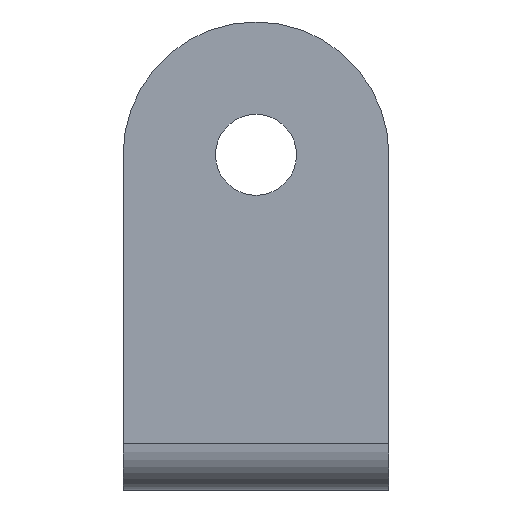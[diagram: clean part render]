
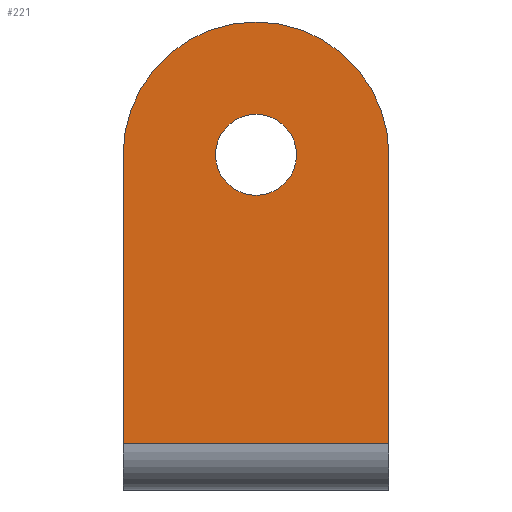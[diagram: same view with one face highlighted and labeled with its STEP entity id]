
A CAD part, left-side view. The second image highlights one B-rep face of the part: STEP entity #221.
In plain terms, the highlighted planar face has unit normal (-1, 0, 0).
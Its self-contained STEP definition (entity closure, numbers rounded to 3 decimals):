
#20=FACE_BOUND('',#55,.T.);
#26=PLANE('',#247);
#37=FACE_OUTER_BOUND('',#54,.T.);
#54=EDGE_LOOP('',(#196,#197,#198,#199));
#55=EDGE_LOOP('',(#200));
#61=LINE('',#338,#77);
#65=LINE('',#352,#81);
#72=LINE('',#372,#88);
#77=VECTOR('',#271,23.);
#81=VECTOR('',#285,25.);
#88=VECTOR('',#308,25.);
#97=CIRCLE('',#239,3.5);
#98=CIRCLE('',#241,11.5);
#109=VERTEX_POINT('',#335);
#110=VERTEX_POINT('',#337);
#115=VERTEX_POINT('',#351);
#117=VERTEX_POINT('',#358);
#118=VERTEX_POINT('',#361);
#130=EDGE_CURVE('',#109,#110,#61,.T.);
#137=EDGE_CURVE('',#110,#115,#65,.T.);
#141=EDGE_CURVE('',#117,#117,#97,.T.);
#143=EDGE_CURVE('',#118,#115,#98,.T.);
#148=EDGE_CURVE('',#109,#118,#72,.T.);
#196=ORIENTED_EDGE('',*,*,#130,.F.);
#197=ORIENTED_EDGE('',*,*,#148,.T.);
#198=ORIENTED_EDGE('',*,*,#143,.T.);
#199=ORIENTED_EDGE('',*,*,#137,.F.);
#200=ORIENTED_EDGE('',*,*,#141,.T.);
#221=ADVANCED_FACE('',(#37,#20),#26,.T.);
#239=AXIS2_PLACEMENT_3D('',#359,#291,#292);
#241=AXIS2_PLACEMENT_3D('',#363,#296,#297);
#247=AXIS2_PLACEMENT_3D('',#374,#311,#312);
#271=DIRECTION('',(0.,1.,0.));
#285=DIRECTION('',(0.,0.,1.));
#291=DIRECTION('center_axis',(1.,0.,0.));
#292=DIRECTION('ref_axis',(0.,0.,-1.));
#296=DIRECTION('center_axis',(-1.,0.,0.));
#297=DIRECTION('ref_axis',(0.,0.,1.));
#308=DIRECTION('',(0.,0.,1.));
#311=DIRECTION('center_axis',(-1.,0.,0.));
#312=DIRECTION('ref_axis',(0.,-1.,0.));
#335=CARTESIAN_POINT('',(0.,-11.5,4.));
#337=CARTESIAN_POINT('',(0.,11.5,4.));
#338=CARTESIAN_POINT('',(0.,5.75,4.));
#351=CARTESIAN_POINT('',(0.,11.5,29.));
#352=CARTESIAN_POINT('',(0.,11.5,0.));
#358=CARTESIAN_POINT('',(0.,0.,32.5));
#359=CARTESIAN_POINT('Origin',(0.,0.,
29.));
#361=CARTESIAN_POINT('',(0.,-11.5,29.));
#363=CARTESIAN_POINT('Origin',(0.,0.,
29.));
#372=CARTESIAN_POINT('',(0.,-11.5,0.));
#374=CARTESIAN_POINT('Origin',(0.,11.5,0.));
